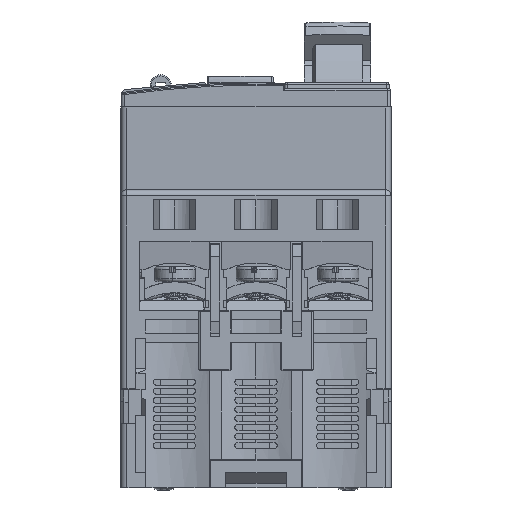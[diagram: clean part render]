
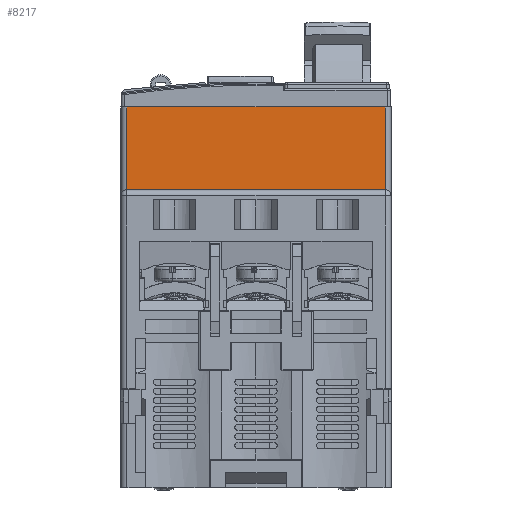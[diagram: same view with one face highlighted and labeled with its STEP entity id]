
A CAD part, front view. The second image highlights one B-rep face of the part: STEP entity #8217.
In plain terms, the highlighted planar face has unit normal (0, -1, 0) as drawn and (-1, 0, 0) by its records, which use the part's own axes.
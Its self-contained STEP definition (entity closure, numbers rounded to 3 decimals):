
#6361 = EDGE_CURVE ( 'NONE', #66625, #46674, #124217, .T. ) ;
#8181 = CARTESIAN_POINT ( 'NONE',  ( 22.3, 1.275, 31. ) ) ;
#8217 = ADVANCED_FACE ( 'NONE', ( #191505 ), #47655, .F. ) ;
#8793 = LINE ( 'NONE', #118093, #63390 ) ;
#10973 = DIRECTION ( 'NONE',  ( 0., 0., -1. ) ) ;
#11632 = ORIENTED_EDGE ( 'NONE', *, *, #21362, .F. ) ;
#13934 = CARTESIAN_POINT ( 'NONE',  ( 22.3, 43.975, 17.3 ) ) ;
#15089 = DIRECTION ( 'NONE',  ( 0., 1., 0. ) ) ;
#21064 = ORIENTED_EDGE ( 'NONE', *, *, #106132, .T. ) ;
#21362 = EDGE_CURVE ( 'NONE', #153213, #177821, #40454, .T. ) ;
#37275 = DIRECTION ( 'NONE',  ( 0., -1., 0. ) ) ;
#40454 = LINE ( 'NONE', #58265, #162773 ) ;
#46674 = VERTEX_POINT ( 'NONE', #91232 ) ;
#47655 = PLANE ( 'NONE',  #66397 ) ;
#58265 = CARTESIAN_POINT ( 'NONE',  ( 22.3, 1.275, 31. ) ) ;
#59292 = VECTOR ( 'NONE', #118501, 1000. ) ;
#63390 = VECTOR ( 'NONE', #37275, 1000. ) ;
#66397 = AXIS2_PLACEMENT_3D ( 'NONE', #66520, #195650, #15089 ) ;
#66520 = CARTESIAN_POINT ( 'NONE',  ( 22.3, 0.275, 17.3 ) ) ;
#66625 = VERTEX_POINT ( 'NONE', #137674 ) ;
#71061 = EDGE_LOOP ( 'NONE', ( #83232, #156279, #11632, #21064 ) ) ;
#83042 = CARTESIAN_POINT ( 'NONE',  ( 22.3, 1.275, 17.3 ) ) ;
#83232 = ORIENTED_EDGE ( 'NONE', *, *, #6361, .F. ) ;
#91232 = CARTESIAN_POINT ( 'NONE',  ( 22.3, 43.975, 31. ) ) ;
#92695 = DIRECTION ( 'NONE',  ( 0., 0., 1. ) ) ;
#106132 = EDGE_CURVE ( 'NONE', #153213, #46674, #197289, .T. ) ;
#108680 = EDGE_CURVE ( 'NONE', #66625, #177821, #8793, .T. ) ;
#118093 = CARTESIAN_POINT ( 'NONE',  ( 22.3, 43.975, 17.3 ) ) ;
#118501 = DIRECTION ( 'NONE',  ( 0., 1., 0. ) ) ;
#119318 = CARTESIAN_POINT ( 'NONE',  ( 22.3, 1.275, 31. ) ) ;
#124217 = LINE ( 'NONE', #13934, #177162 ) ;
#137674 = CARTESIAN_POINT ( 'NONE',  ( 22.3, 43.975, 17.3 ) ) ;
#153213 = VERTEX_POINT ( 'NONE', #119318 ) ;
#156279 = ORIENTED_EDGE ( 'NONE', *, *, #108680, .T. ) ;
#162773 = VECTOR ( 'NONE', #10973, 1000. ) ;
#177162 = VECTOR ( 'NONE', #92695, 1000. ) ;
#177821 = VERTEX_POINT ( 'NONE', #83042 ) ;
#191505 = FACE_OUTER_BOUND ( 'NONE', #71061, .T. ) ;
#195650 = DIRECTION ( 'NONE',  ( 1., 0., 0. ) ) ;
#197289 = LINE ( 'NONE', #8181, #59292 ) ;
